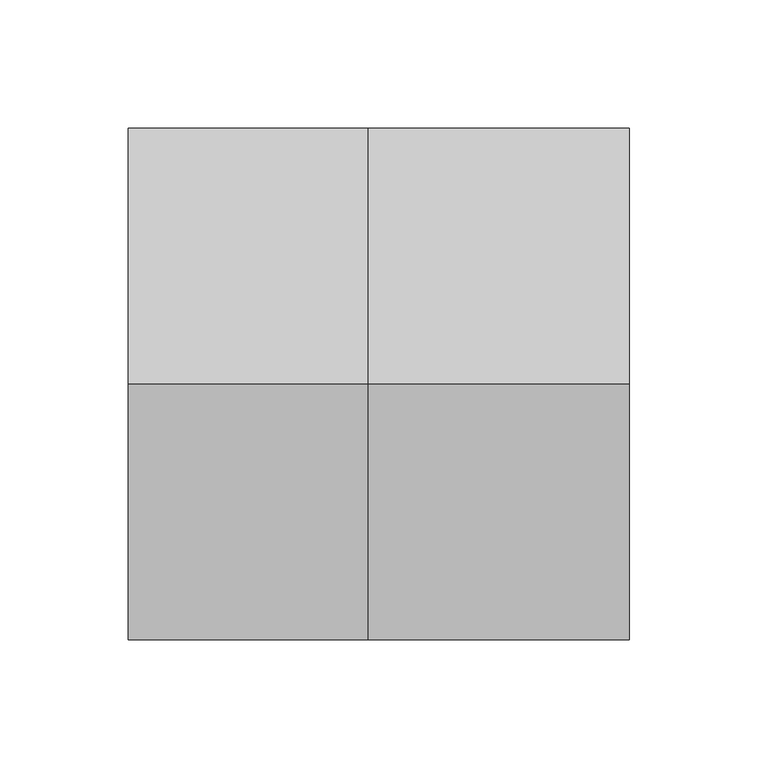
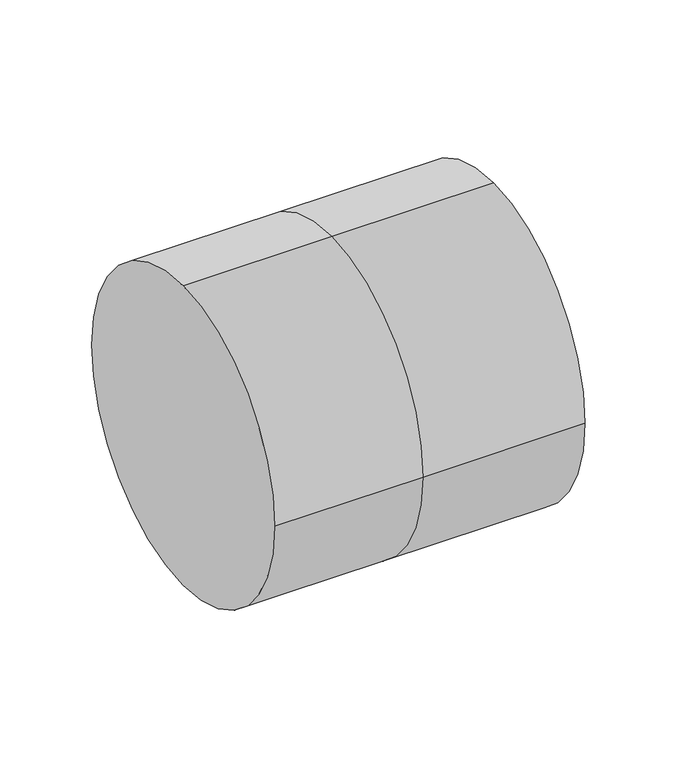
"""IFC4 building model written with IfcOpenShell, lengths in millimetres: duct fitting geometry, M_Encaixe de duto redondo : Padrão."""

from ifc_helpers import new_model, si_unit, frame, origin, place, context, project, spatial, circle_curve, source, transform, mapped, element, save
from ifc_brep_helpers import plane_surface, cylinder_surface, advanced_brep


def duct_fitting_1aed30ea(model_context):
    return source(origin(), model_context, "Body", "AdvancedBrep", [
        advanced_brep(
        [(101.6, 0.0, 99.5), (101.6, -99.5, 0.0), (101.6, 0.0, -99.5), (101.6, 99.5, 0.0), (0.0, 99.5, 0.0), (0.0, 0.0, 99.5), (0.0, 0.0, -99.5), (0.0, -99.5, 0.0), (-93.404, 0.0, 99.5), (-93.404, 99.5, 0.0), (-93.404, 0.0, -99.5), (-93.404, -99.5, 0.0)],
        [
            (0, 1, circle_curve(frame((101.6, 0.0, 0.0), z_axis=(1.0, 0.0, 0.0), x_axis=(0.0, 1.0, 0.0)), 99.5)),
            (1, 2, circle_curve(frame((101.6, 0.0, 0.0), z_axis=(1.0, 0.0, 0.0), x_axis=(0.0, 1.0, 0.0)), 99.5)),
            (2, 3, circle_curve(frame((101.6, 0.0, 0.0), z_axis=(1.0, 0.0, 0.0), x_axis=(0.0, 1.0, 0.0)), 99.5)),
            (3, 0, circle_curve(frame((101.6, 0.0, 0.0), z_axis=(1.0, 0.0, 0.0), x_axis=(0.0, 1.0, 0.0)), 99.5)),
            (3, 4),
            (4, 5, circle_curve(frame((0.0, 0.0, 0.0), z_axis=(1.0, 0.0, 0.0), x_axis=(0.0, 1.0, 0.0)), 99.5)),
            (5, 0),
            (2, 6),
            (6, 4, circle_curve(frame((0.0, 0.0, 0.0), z_axis=(1.0, 0.0, 0.0), x_axis=(0.0, 1.0, 0.0)), 99.5)),
            (1, 7),
            (7, 6, circle_curve(frame((0.0, 0.0, 0.0), z_axis=(1.0, 0.0, 0.0), x_axis=(0.0, 1.0, 0.0)), 99.5)),
            (5, 7, circle_curve(frame((0.0, 0.0, 0.0), z_axis=(1.0, 0.0, 0.0), x_axis=(0.0, 1.0, 0.0)), 99.5)),
            (8, 9, circle_curve(frame((-93.404, 0.0, 0.0), z_axis=(-1.0, 0.0, 0.0), x_axis=(0.0, 1.0, 0.0)), 99.5)),
            (9, 10, circle_curve(frame((-93.404, 0.0, 0.0), z_axis=(-1.0, 0.0, 0.0), x_axis=(0.0, 1.0, 0.0)), 99.5)),
            (10, 11, circle_curve(frame((-93.404, 0.0, 0.0), z_axis=(-1.0, 0.0, 0.0), x_axis=(0.0, 1.0, 0.0)), 99.5)),
            (11, 8, circle_curve(frame((-93.404, 0.0, 0.0), z_axis=(-1.0, 0.0, 0.0), x_axis=(0.0, 1.0, 0.0)), 99.5)),
            (8, 5),
            (4, 9),
            (6, 10),
            (7, 11),
        ],
        [
            plane_surface(frame((101.6, 0.0, 0.0), z_axis=(1.0, 0.0, 0.0), x_axis=(0.0, 0.0, 1.0))),
            cylinder_surface(frame((0.0, 0.0, 0.0), z_axis=(-1.0, 0.0, 0.0), x_axis=(0.0, 1.0, 0.0)), 99.5),
            plane_surface(frame((-93.404, 0.0, 0.0), z_axis=(-1.0, 0.0, 0.0), x_axis=(0.0, 0.0, 1.0))),
            cylinder_surface(frame((-93.404, 0.0, 0.0), z_axis=(-1.0, 0.0, 0.0), x_axis=(0.0, 1.0, 0.0)), 99.5),
        ],
        [
            (0, [[1, 2, 3, 4]]),
            (1, [[-4, 5, 6, 7]]),
            (1, [[-3, 8, 9, -5]]),
            (1, [[-2, 10, 11, -8]]),
            (1, [[-1, -7, 12, -10]]),
            (2, [[13, 14, 15, 16]]),
            (3, [[-13, 17, -6, 18]]),
            (3, [[-14, -18, -9, 19]]),
            (3, [[-15, -19, -11, 20]]),
            (3, [[-16, -20, -12, -17]]),
        ],
    ),
    ])


if __name__ == "__main__":
    model = new_model("IFC4")
    model_context = context("Model", 3, world=origin())
    ifc_project = project(units=[si_unit("LENGTHUNIT", "METRE", prefix="MILLI")], contexts=[model_context])
    site = spatial("IfcSite", under=ifc_project)
    building = spatial("IfcBuilding", under=site)
    placement = place(None, origin())
    duct_fitting_shape = duct_fitting_1aed30ea(model_context)
    element("IfcDuctFitting", 1, ObjectType="M_Encaixe de duto redondo : Padrão", at=placement, inside=building, context=model_context, shape_type="MappedRepresentation", body=[
        mapped(duct_fitting_shape, transform((0.0, 0.0, 0.0), x_axis=(1.0, 0.0, 0.0), y_axis=(0.0, 1.0, 0.0), z_axis=(0.0, 0.0, 1.0))),
    ])
    save(model, "model.ifc")
